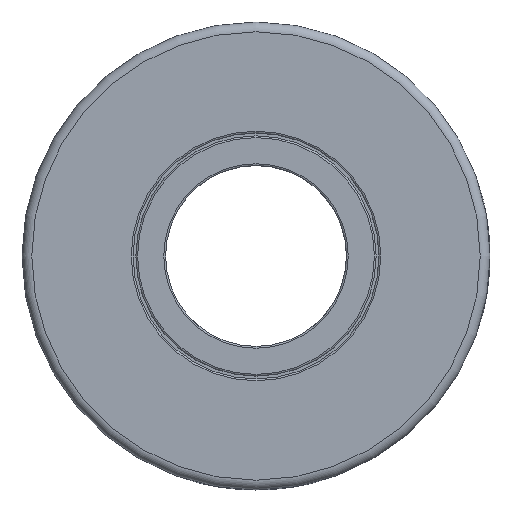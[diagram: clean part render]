
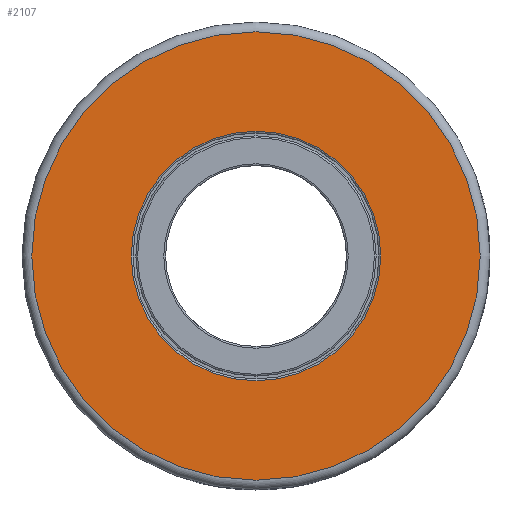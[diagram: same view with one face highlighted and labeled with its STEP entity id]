
A CAD part, left-side view. The second image highlights one B-rep face of the part: STEP entity #2107.
In plain terms, the highlighted planar face has unit normal (-1, 0, 0).
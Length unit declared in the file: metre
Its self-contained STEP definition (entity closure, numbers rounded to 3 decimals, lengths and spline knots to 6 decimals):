
#337=PLANE('',#2262);
#400=CIRCLE('',#2261,0.00345);
#401=CIRCLE('',#2263,0.0062);
#578=ORIENTED_EDGE('',*,*,#1189,.T.);
#579=ORIENTED_EDGE('',*,*,#1188,.T.);
#1188=EDGE_CURVE('',#1504,#1504,#400,.T.);
#1189=EDGE_CURVE('',#1505,#1505,#401,.T.);
#1504=VERTEX_POINT('',#3332);
#1505=VERTEX_POINT('',#3335);
#1750=EDGE_LOOP('',(#578));
#1751=EDGE_LOOP('',(#579));
#1904=FACE_BOUND('',#1750,.T.);
#1905=FACE_BOUND('',#1751,.T.);
#2107=ADVANCED_FACE('',(#1904,#1905),#337,.T.);
#2261=AXIS2_PLACEMENT_3D('',#3331,#2576,#2577);
#2262=AXIS2_PLACEMENT_3D('',#3333,#2578,#2579);
#2263=AXIS2_PLACEMENT_3D('',#3334,#2580,#2581);
#2576=DIRECTION('',(1.,0.,0.));
#2577=DIRECTION('',(0.,0.,1.));
#2578=DIRECTION('',(-1.,0.,0.));
#2579=DIRECTION('',(0.,0.,1.));
#2580=DIRECTION('',(-1.,0.,0.));
#2581=DIRECTION('',(0.,0.,1.));
#3331=CARTESIAN_POINT('',(-0.045734,0.005331,-0.025701));
#3332=CARTESIAN_POINT('',(-0.045734,0.005331,-0.022251));
#3333=CARTESIAN_POINT('',(-0.045734,0.005331,-0.025701));
#3334=CARTESIAN_POINT('',(-0.045734,0.005331,-0.025701));
#3335=CARTESIAN_POINT('',(-0.045734,0.005331,-0.019501));
